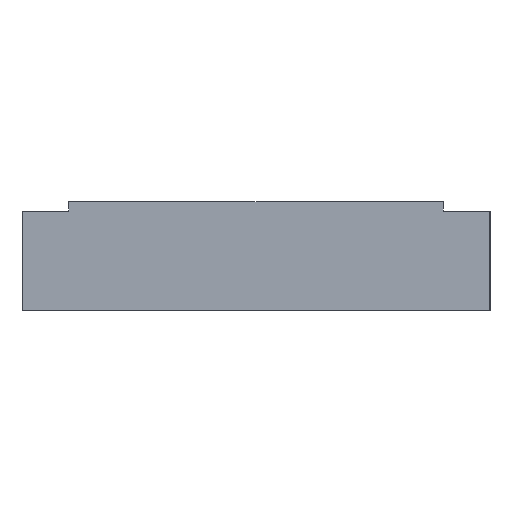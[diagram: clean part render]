
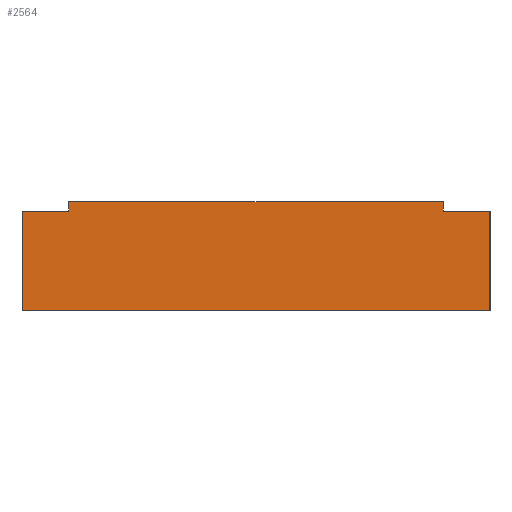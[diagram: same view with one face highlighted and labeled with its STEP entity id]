
A CAD part, left-side view. The second image highlights one B-rep face of the part: STEP entity #2564.
In plain terms, the highlighted planar face has unit normal (-1, 0, 0).
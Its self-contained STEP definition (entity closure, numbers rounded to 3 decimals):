
#2 = DIRECTION ( 'NONE',  ( 0., 0., -1. ) ) ;
#11 = CARTESIAN_POINT ( 'NONE',  ( -88., 50., 21.2 ) ) ;
#42 = VECTOR ( 'NONE', #2626, 1000. ) ;
#48 = ORIENTED_EDGE ( 'NONE', *, *, #761, .T. ) ;
#98 = LINE ( 'NONE', #2461, #901 ) ;
#210 = CARTESIAN_POINT ( 'NONE',  ( -88., 50., 0. ) ) ;
#251 = ORIENTED_EDGE ( 'NONE', *, *, #1534, .T. ) ;
#262 = CARTESIAN_POINT ( 'NONE',  ( -88., 40., 21.2 ) ) ;
#271 = EDGE_CURVE ( 'NONE', #723, #2384, #2800, .T. ) ;
#359 = DIRECTION ( 'NONE',  ( 0., -1., 0. ) ) ;
#391 = VECTOR ( 'NONE', #3079, 1000. ) ;
#431 = CARTESIAN_POINT ( 'NONE',  ( -88., 50., 0. ) ) ;
#471 = EDGE_CURVE ( 'NONE', #3124, #1967, #98, .T. ) ;
#557 = ORIENTED_EDGE ( 'NONE', *, *, #856, .F. ) ;
#602 = LINE ( 'NONE', #11, #1793 ) ;
#650 = VECTOR ( 'NONE', #1128, 1000. ) ;
#723 = VERTEX_POINT ( 'NONE', #2353 ) ;
#761 = EDGE_CURVE ( 'NONE', #2130, #1562, #844, .T. ) ;
#844 = LINE ( 'NONE', #2324, #391 ) ;
#856 = EDGE_CURVE ( 'NONE', #1967, #723, #1908, .T. ) ;
#901 = VECTOR ( 'NONE', #359, 1000. ) ;
#966 = EDGE_CURVE ( 'NONE', #2384, #1830, #2376, .T. ) ;
#1070 = LINE ( 'NONE', #210, #3197 ) ;
#1082 = ORIENTED_EDGE ( 'NONE', *, *, #271, .F. ) ;
#1128 = DIRECTION ( 'NONE',  ( 0., 0., -1. ) ) ;
#1139 = CARTESIAN_POINT ( 'NONE',  ( -88., -40., 23.2 ) ) ;
#1259 = CARTESIAN_POINT ( 'NONE',  ( -88., -50., 21.2 ) ) ;
#1427 = ORIENTED_EDGE ( 'NONE', *, *, #471, .F. ) ;
#1498 = DIRECTION ( 'NONE',  ( 0., -1., 0. ) ) ;
#1534 = EDGE_CURVE ( 'NONE', #1562, #1830, #1070, .T. ) ;
#1556 = CARTESIAN_POINT ( 'NONE',  ( -88., 40., 23.2 ) ) ;
#1562 = VERTEX_POINT ( 'NONE', #431 ) ;
#1645 = EDGE_CURVE ( 'NONE', #2130, #2169, #602, .T. ) ;
#1665 = EDGE_LOOP ( 'NONE', ( #251, #1750, #1082, #557, #1427, #2442, #2289, #48 ) ) ;
#1698 = DIRECTION ( 'NONE',  ( 0., 1., 0. ) ) ;
#1734 = PLANE ( 'NONE',  #2216 ) ;
#1750 = ORIENTED_EDGE ( 'NONE', *, *, #966, .F. ) ;
#1793 = VECTOR ( 'NONE', #1498, 1000. ) ;
#1830 = VERTEX_POINT ( 'NONE', #1919 ) ;
#1893 = DIRECTION ( 'NONE',  ( 0., -1., 0. ) ) ;
#1908 = LINE ( 'NONE', #1139, #42 ) ;
#1919 = CARTESIAN_POINT ( 'NONE',  ( -88., -50., 0. ) ) ;
#1967 = VERTEX_POINT ( 'NONE', #3131 ) ;
#1983 = CARTESIAN_POINT ( 'NONE',  ( -88., 50., 21.2 ) ) ;
#2055 = VECTOR ( 'NONE', #2, 1000. ) ;
#2130 = VERTEX_POINT ( 'NONE', #2508 ) ;
#2142 = VECTOR ( 'NONE', #1893, 1000. ) ;
#2169 = VERTEX_POINT ( 'NONE', #262 ) ;
#2211 = EDGE_CURVE ( 'NONE', #3124, #2169, #2898, .T. ) ;
#2216 = AXIS2_PLACEMENT_3D ( 'NONE', #1983, #2957, #1698 ) ;
#2289 = ORIENTED_EDGE ( 'NONE', *, *, #1645, .F. ) ;
#2324 = CARTESIAN_POINT ( 'NONE',  ( -88., 50., 21.2 ) ) ;
#2353 = CARTESIAN_POINT ( 'NONE',  ( -88., -40., 21.2 ) ) ;
#2376 = LINE ( 'NONE', #2605, #650 ) ;
#2384 = VERTEX_POINT ( 'NONE', #1259 ) ;
#2442 = ORIENTED_EDGE ( 'NONE', *, *, #2211, .T. ) ;
#2455 = DIRECTION ( 'NONE',  ( 0., -1., 0. ) ) ;
#2461 = CARTESIAN_POINT ( 'NONE',  ( -88., 40., 23.2 ) ) ;
#2508 = CARTESIAN_POINT ( 'NONE',  ( -88., 50., 21.2 ) ) ;
#2564 = ADVANCED_FACE ( 'NONE', ( #2912 ), #1734, .F. ) ;
#2605 = CARTESIAN_POINT ( 'NONE',  ( -88., -50., 21.2 ) ) ;
#2626 = DIRECTION ( 'NONE',  ( 0., 0., -1. ) ) ;
#2800 = LINE ( 'NONE', #3136, #2142 ) ;
#2898 = LINE ( 'NONE', #3018, #2055 ) ;
#2912 = FACE_OUTER_BOUND ( 'NONE', #1665, .T. ) ;
#2957 = DIRECTION ( 'NONE',  ( 1., 0., 0. ) ) ;
#3018 = CARTESIAN_POINT ( 'NONE',  ( -88., 40., 23.2 ) ) ;
#3079 = DIRECTION ( 'NONE',  ( 0., 0., -1. ) ) ;
#3124 = VERTEX_POINT ( 'NONE', #1556 ) ;
#3131 = CARTESIAN_POINT ( 'NONE',  ( -88., -40., 23.2 ) ) ;
#3136 = CARTESIAN_POINT ( 'NONE',  ( -88., 50., 21.2 ) ) ;
#3197 = VECTOR ( 'NONE', #2455, 1000. ) ;
